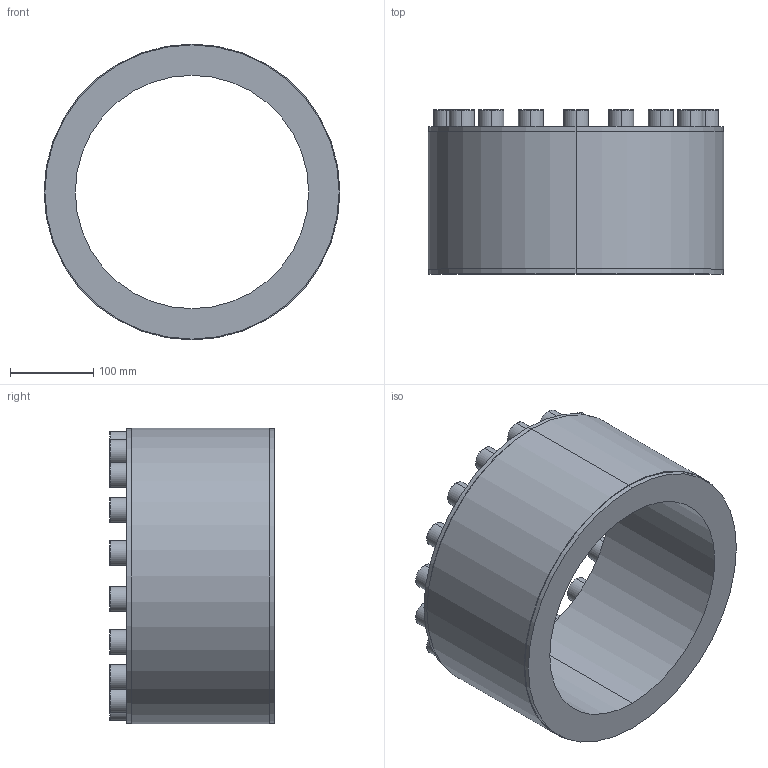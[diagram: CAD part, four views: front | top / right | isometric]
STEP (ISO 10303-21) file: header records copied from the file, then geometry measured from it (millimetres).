
FILE_DESCRIPTION (( 'STEP AP203' ), '1' );
FILE_NAME ('PL-D1 280-355.STEP', '2021-10-23T00:24:54', ( '' ), ( '' ), 'SwSTEP 2.0', 'SolidWorks 2018', '' );
FILE_SCHEMA (( 'CONFIG_CONTROL_DESIGN' ));
Length unit declared in the file: millimetre
Products named in the file (1): PL-D1 280-355
Bounding box: 355 x 197 x 355 mm (x, y, z)
Volume: 6816594.5 mm3; surface area: 471996.4 mm2
Topology: 1 solids, 1 shells, 228 faces, 528 edges, 340 vertices
Faces by surface type: plane 148, cylinder 44, torus 36
Entity records: 6525 total; most frequent: DIRECTION 1146, CARTESIAN_POINT 1097, ORIENTED_EDGE 1056, EDGE_CURVE 528, AXIS2_PLACEMENT_3D 389, LINE 368, VECTOR 368, VERTEX_POINT 340
